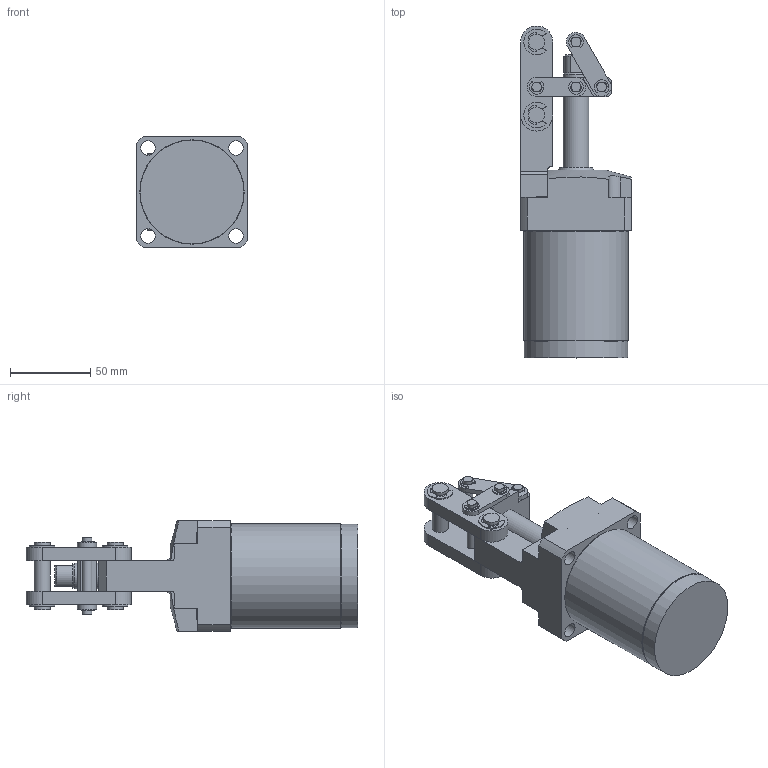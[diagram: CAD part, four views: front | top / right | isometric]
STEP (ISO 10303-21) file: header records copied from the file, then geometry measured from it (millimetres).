
FILE_DESCRIPTION( ( '' ), '1' );
FILE_NAME( 'W:/Catalogue/JLF5H/JLF5H42-44K/JLF5H42-44K.stp', '2008-05-26T02:44:30', ( '機械事業部産業機器グループ' ), ( '豊和工業株式会社' ), 'XStep 1.0', ' ', ' ' );
FILE_SCHEMA( ( 'CONFIG_CONTROL_DESIGN' ) );
Length unit declared in the file: millimetre
Products named in the file (6): Assem1; 1; 2; 3; 4; 5
Bounding box: 69 x 207 x 69 mm (x, y, z)
Volume: 843176.7 mm3; surface area: 173647.4 mm2
Topology: 10 solids, 14 shells, 850 faces, 2216 edges, 1478 vertices
Faces by surface type: plane 442, cylinder 378, cone 28, torus 2
Full cylindrical faces by diameter (mm): 2 x2, 4 x16, 5 x2, 6 x32, 8 x8, 9 x8, 10 x14, 11 x4, 16 x6, 18 x2, 22 x2, 26 x4, 42 x4, 64 x4, 64.7 x2, 65 x2
Entity records: 12961 total; most frequent: DIRECTION 2297, CARTESIAN_POINT 2278, ORIENTED_EDGE 2004, EDGE_CURVE 1002, AXIS2_PLACEMENT_3D 881, VERTEX_POINT 704, EDGE_LOOP 561, LINE 535
